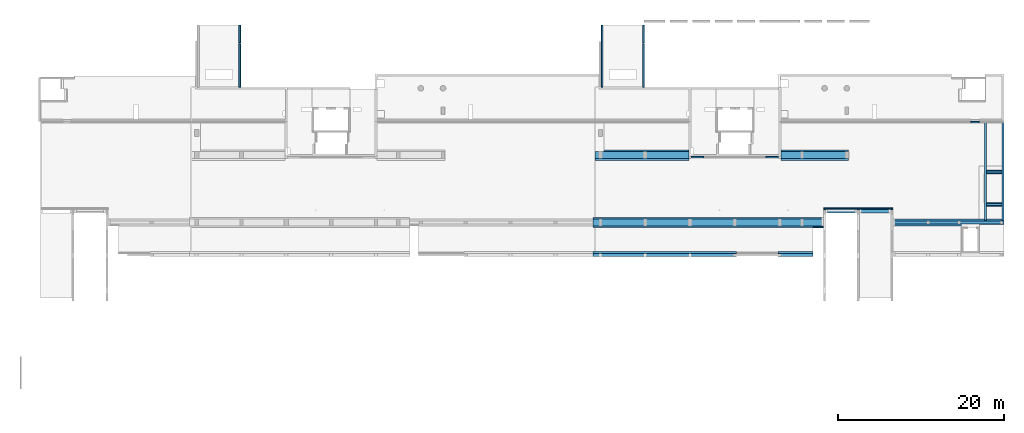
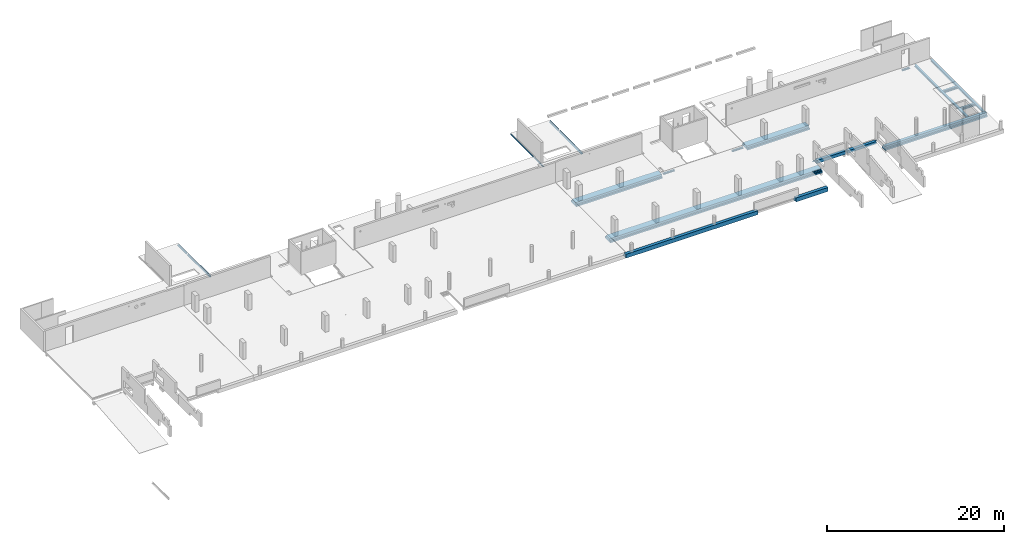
# One storey, part 2 of 10: 24 beams.
"""IFC2X3 building model written with IfcOpenShell, lengths in millimetres."""

import ifcopenshell
import ifcopenshell.guid

model = None  # the IFC model being written
_history = None  # IfcOwnerHistory: only IFC2X3 demands one
_inside = {}  # id of a spatial element -> (the spatial element, [elements in it])
_under = {}  # id of a project, library or spatial element -> (it, [spatial elements below it])
_declared = {}  # id of a project -> (the project, [libraries it declares])
_typed = {}  # id of a type object -> (the type object, [elements of that type])
_made_of = {}  # id of a material, layer set ... -> (it, [elements and type objects made of it])


def new_model(schema):
    """Start an empty IFC model of exactly this schema.

    Asked for "IFC4X3", IfcOpenShell would pick the latest addendum, in which some entities
    have other attributes; the version numbers below select the first issue.
    IFC2X3 requires an IfcOwnerHistory on every rooted entity: one is made here for all.
    """
    global model, _history
    if schema == "IFC4X3":
        model = ifcopenshell.file(schema_version=(4, 3, 0, 0))
    else:
        model = ifcopenshell.file(schema=schema)
    _inside.clear()
    _under.clear()
    _declared.clear()
    _typed.clear()
    _made_of.clear()
    _history = None
    if model.schema == "IFC2X3":
        org = make("IfcOrganization", Name="unknown")
        user = make(
            "IfcPersonAndOrganization",
            ThePerson=make("IfcPerson", FamilyName="unknown"),
            TheOrganization=org,
        )
        app = make(
            "IfcApplication",
            ApplicationDeveloper=org,
            Version="unknown",
            ApplicationFullName="unknown",
            ApplicationIdentifier="unknown",
        )
        _history = make(
            "IfcOwnerHistory",
            OwningUser=user,
            OwningApplication=app,
            ChangeAction="ADDED",
            CreationDate=0,
        )
    return model


def make(cls, **values):
    """One entity of the class cls with the attributes given. An attribute that is None is left unset."""
    return model.create_entity(
        cls, **{name: value for name, value in values.items() if value is not None}
    )


def entity(cls, *values):
    """Any entity or typed value of the class cls, its attributes in the order of the schema. None: left unset."""
    e = model.create_entity(cls)
    for i, value in enumerate(values):
        if value is not None:
            e[i] = value
    return e


def rooted(cls, **values):
    """An entity with a GlobalId (a new one), such as an element, a storey or a relation."""
    return make(cls, GlobalId=ifcopenshell.guid.new(), OwnerHistory=_history, **values)


def si_unit(unit_type, name, prefix=None):
    """IfcSIUnit, for example si_unit("LENGTHUNIT", "METRE", prefix="MILLI")."""
    return make("IfcSIUnit", UnitType=unit_type, Prefix=prefix, Name=name)


def converted_unit(unit_type, name, factor, base, dimensions=None, offset=None):
    """IfcConversionBasedUnit, such as the inch: factor (a typed value) times the base unit."""
    return make(
        "IfcConversionBasedUnit"
        if offset is None
        else "IfcConversionBasedUnitWithOffset",
        ConversionOffset=offset,
        Dimensions=None
        if dimensions is None
        else entity("IfcDimensionalExponents", *dimensions),
        UnitType=unit_type,
        Name=name,
        ConversionFactor=make(
            "IfcMeasureWithUnit", ValueComponent=factor, UnitComponent=base
        ),
    )


def derived_unit(unit_type, elements):
    """IfcDerivedUnit: a product of units, each with its exponent."""
    return make(
        "IfcDerivedUnit",
        Elements=[
            make("IfcDerivedUnitElement", Unit=unit, Exponent=power)
            for unit, power in elements
        ],
        UnitType=unit_type,
    )


def assignment(units):
    """IfcUnitAssignment: the units of a project."""
    return None if units is None else make("IfcUnitAssignment", Units=units)


def point(xyz):
    """IfcCartesianPoint."""
    return None if xyz is None else make("IfcCartesianPoint", Coordinates=xyz)


def direction(xyz):
    """IfcDirection."""
    return None if xyz is None else make("IfcDirection", DirectionRatios=xyz)


def frame(location, z_axis=None, x_axis=None):
    """IfcAxis2Placement3D, a coordinate frame: its origin and axes. An axis left out is left unset."""
    return make(
        "IfcAxis2Placement3D",
        Location=point(location),
        Axis=direction(z_axis),
        RefDirection=direction(x_axis),
    )


def frame_2d(location, x_axis=None):
    """IfcAxis2Placement2D, a coordinate frame in the plane: its origin and x axis."""
    return make(
        "IfcAxis2Placement2D", Location=point(location), RefDirection=direction(x_axis)
    )


def origin():
    """The frame at (0, 0, 0) with its axes left unset."""
    return frame((0.0, 0.0, 0.0))


def origin_2d_with_axis():
    """The frame at (0, 0) in the plane with the x axis (1, 0) written out."""
    return frame_2d((0.0, 0.0), x_axis=(1.0, 0.0))


def place(relative_to, where):
    """IfcLocalPlacement: puts the frame where relative to a parent placement (None: the world)."""
    return make(
        "IfcLocalPlacement", PlacementRelTo=relative_to, RelativePlacement=where
    )


def context(
    kind, dimensions, precision=None, world=None, true_north=None, identifier=None
):
    """IfcGeometricRepresentationContext, for example the 3D "Model" context."""
    return make(
        "IfcGeometricRepresentationContext",
        ContextIdentifier=identifier,
        ContextType=kind,
        CoordinateSpaceDimension=dimensions,
        Precision=precision,
        WorldCoordinateSystem=world,
        TrueNorth=true_north,
    )


def subcontext(parent, identifier, kind, view, scale=None):
    """IfcGeometricRepresentationSubContext, for example "Body" below "Model"."""
    return make(
        "IfcGeometricRepresentationSubContext",
        ContextIdentifier=identifier,
        ContextType=kind,
        ParentContext=parent,
        TargetScale=scale,
        TargetView=view,
    )


def project(units=None, contexts=None):
    """IfcProject with its units and contexts."""
    return rooted(
        "IfcProject",
        Name="project",
        RepresentationContexts=contexts,
        UnitsInContext=assignment(units),
    )


def spatial(cls, under=None, at=None, **own):
    """A site, building, storey or space (cls), placed at a placement, below another one or the project."""
    s = rooted(cls, ObjectPlacement=at, **own)
    if under is not None:
        _under.setdefault(under.id(), (under, []))[1].append(s)
    return s


def polyline(points):
    """IfcPolyline through the points."""
    return make("IfcPolyline", Points=[point(p) for p in points])


def circle_curve(where, radius):
    """IfcCircle in the frame where."""
    return make("IfcCircle", Position=where, Radius=radius)


def parameter(value):
    """IfcParameterValue: where a trimmed curve begins or ends, as a parameter of its basis curve."""
    return model.create_entity("IfcParameterValue", value)


def trimmed(basis, trim1, trim2, sense, master):
    """IfcTrimmedCurve: the piece of a basis curve between two trims."""
    return make(
        "IfcTrimmedCurve",
        BasisCurve=basis,
        Trim1=trim1,
        Trim2=trim2,
        SenseAgreement=sense,
        MasterRepresentation=master,
    )


def segment(curve, same_sense, transition):
    """IfcCompositeCurveSegment."""
    return make(
        "IfcCompositeCurveSegment",
        Transition=transition,
        SameSense=same_sense,
        ParentCurve=curve,
    )


def composite_curve(segments, self_intersect=None):
    """IfcCompositeCurve: segments joined end to end."""
    return make("IfcCompositeCurve", Segments=segments, SelfIntersect=self_intersect)


def profile(cls, at=None, kind="AREA", **sizes):
    """A parametric profile (cls). Its sizes go by their IFC names, for example OverallWidth=200.0."""
    return make(cls, ProfileType=kind, Position=at, **sizes)


def rectangle(**sizes):
    """IfcRectangleProfileDef."""
    return profile("IfcRectangleProfileDef", **sizes)


def i_section(**sizes):
    """IfcIShapeProfileDef."""
    return profile("IfcIShapeProfileDef", **sizes)


def outline(outer, holes=None, kind="AREA"):
    """IfcArbitraryClosedProfileDef: a profile drawn as a closed curve; with holes, ...WithVoids."""
    if holes is None:
        return make("IfcArbitraryClosedProfileDef", ProfileType=kind, OuterCurve=outer)
    return make(
        "IfcArbitraryProfileDefWithVoids",
        ProfileType=kind,
        OuterCurve=outer,
        InnerCurves=holes,
    )


def extrude(swept, where, along, depth):
    """IfcExtrudedAreaSolid: the profile swept, set in the frame where, extruded along a direction by depth."""
    return make(
        "IfcExtrudedAreaSolid",
        SweptArea=swept,
        Position=where,
        ExtrudedDirection=direction(along),
        Depth=depth,
    )


def shape(context_of_items, identifier, shape_type, items):
    """IfcShapeRepresentation: the items that make up one representation, for example the "Body"."""
    return make(
        "IfcShapeRepresentation",
        ContextOfItems=context_of_items,
        RepresentationIdentifier=identifier,
        RepresentationType=shape_type,
        Items=items,
    )


def source(mapping_origin, context_of_items, identifier, shape_type, items):
    """IfcRepresentationMap: a shape defined once, which mapped items show again and again."""
    return make(
        "IfcRepresentationMap",
        MappingOrigin=mapping_origin,
        MappedRepresentation=shape(context_of_items, identifier, shape_type, items),
    )


def transform(
    local_origin,
    x_axis=None,
    y_axis=None,
    z_axis=None,
    scale=None,
    scale2=None,
    scale3=None,
    uniform=True,
):
    """IfcCartesianTransformationOperator3D, or its non-uniform kind. x_axis, y_axis, z_axis: its Axis1, 2, 3."""
    if uniform:
        return make(
            "IfcCartesianTransformationOperator3D",
            Axis1=direction(x_axis),
            Axis2=direction(y_axis),
            LocalOrigin=point(local_origin),
            Scale=scale,
            Axis3=direction(z_axis),
        )
    return make(
        "IfcCartesianTransformationOperator3DnonUniform",
        Axis1=direction(x_axis),
        Axis2=direction(y_axis),
        LocalOrigin=point(local_origin),
        Scale=scale,
        Axis3=direction(z_axis),
        Scale2=scale2,
        Scale3=scale3,
    )


def mapped(mapping_source, mapping_target):
    """IfcMappedItem: shows the shape of a source again, moved by a transform."""
    return make(
        "IfcMappedItem", MappingSource=mapping_source, MappingTarget=mapping_target
    )


def material(Name=None, Category=None):
    """IfcMaterial."""
    return make("IfcMaterial", Name=Name, Category=Category)


def made_of(thing, what):
    """Note that an element or type object is made of a material, layer set ...; save() writes the relation."""
    if what is not None:
        _made_of.setdefault(what.id(), (what, []))[1].append(thing)
    return thing


def type_object(cls, material=None, **own):
    """A type object (cls), such as IfcWallType, which elements share."""
    return made_of(rooted(cls, **own), material)


def type_shapes(of_type, sources):
    """Give a type object the sources (RepresentationMaps) that its elements show as mapped items."""
    of_type.RepresentationMaps = sources


def element(
    cls,
    number,
    at=None,
    inside=None,
    cuts=None,
    type_object=None,
    material=None,
    context=None,
    identifier="Body",
    shape_type=None,
    held_by="IfcProductDefinitionShape",
    body=None,
    shapes=None,
    **own,
):
    """One element of the class cls, such as IfcWall. Its Tag is "e" and its number.

    at: its placement. inside: the storey or other place that contains it. cuts: it is an
    opening in that element (IfcRelVoidsElement). A single representation is given by context,
    identifier, shape_type and body (its items); several are given by shapes. held_by: the class
    of the entity that holds the representations. save() writes the other relations.
    """
    e = rooted(cls, Tag="e%d" % number, ObjectPlacement=at, **own)
    if body is not None:
        shapes = [shape(context, identifier, shape_type, body)]
    if shapes is not None:
        e.Representation = make(held_by, Representations=shapes)
    if inside is not None:
        _inside.setdefault(inside.id(), (inside, []))[1].append(e)
    if cuts is not None:
        rooted(
            "IfcRelVoidsElement", RelatingBuildingElement=cuts, RelatedOpeningElement=e
        )
    if type_object is not None:
        _typed.setdefault(type_object.id(), (type_object, []))[1].append(e)
    return made_of(e, material)


def aggregate(whole, parts):
    """IfcRelAggregates: a whole, such as a stair, and the parts it consists of."""
    return rooted("IfcRelAggregates", RelatingObject=whole, RelatedObjects=parts)


def save(model, path):
    """Write the relations noted so far, then the file.

    IfcRelAggregates (storeys below a building ...), IfcRelContainedInSpatialStructure (elements
    in a storey), IfcRelDefinesByType, IfcRelAssociatesMaterial and IfcRelDeclares: one each for
    every whole, place, type object, material and project.
    """
    for whole, parts in _under.values():
        aggregate(whole, parts)
    for where, things in _inside.values():
        rooted(
            "IfcRelContainedInSpatialStructure",
            RelatedElements=things,
            RelatingStructure=where,
        )
    for kind, things in _typed.values():
        rooted("IfcRelDefinesByType", RelatedObjects=things, RelatingType=kind)
    for what, things in _made_of.values():
        rooted("IfcRelAssociatesMaterial", RelatedObjects=things, RelatingMaterial=what)
    for by, libraries in _declared.values():
        rooted("IfcRelDeclares", RelatingContext=by, RelatedDefinitions=libraries)
    model.write(path)


model = new_model("IFC2X3")

# Units and contexts
model_context = context("Model", 3, precision=0.01, world=origin(), true_north=direction((6.12303176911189e-17, 1.0)))
body_context = subcontext(model_context, "Body", "Model", "MODEL_VIEW")
ifc_project = project(units=[si_unit("LENGTHUNIT", "METRE", prefix="MILLI"), si_unit("AREAUNIT", "SQUARE_METRE"), si_unit("VOLUMEUNIT", "CUBIC_METRE"), converted_unit("PLANEANGLEUNIT", "DEGREE", entity("IfcRatioMeasure", 0.0174532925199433), si_unit("PLANEANGLEUNIT", "RADIAN"), dimensions=[0, 0, 0, 0, 0, 0, 0]), si_unit("MASSUNIT", "GRAM", prefix="KILO"), derived_unit("MASSDENSITYUNIT", [(si_unit("MASSUNIT", "GRAM", prefix="KILO"), 1), (si_unit("LENGTHUNIT", "METRE"), -3)]), si_unit("TIMEUNIT", "SECOND"), si_unit("FREQUENCYUNIT", "HERTZ"), si_unit("THERMODYNAMICTEMPERATUREUNIT", "DEGREE_CELSIUS"), derived_unit("THERMALTRANSMITTANCEUNIT", [(si_unit("MASSUNIT", "GRAM", prefix="KILO"), 1), (si_unit("THERMODYNAMICTEMPERATUREUNIT", "KELVIN"), -1), (si_unit("TIMEUNIT", "SECOND"), -3)]), derived_unit("VOLUMETRICFLOWRATEUNIT", [(si_unit("LENGTHUNIT", "METRE"), 3), (si_unit("TIMEUNIT", "SECOND"), -1)]), si_unit("ELECTRICCURRENTUNIT", "AMPERE"), si_unit("ELECTRICVOLTAGEUNIT", "VOLT"), si_unit("POWERUNIT", "WATT"), si_unit("FORCEUNIT", "NEWTON", prefix="KILO"), si_unit("ILLUMINANCEUNIT", "LUX"), si_unit("LUMINOUSFLUXUNIT", "LUMEN"), si_unit("LUMINOUSINTENSITYUNIT", "CANDELA"), derived_unit("USERDEFINED", [(si_unit("MASSUNIT", "GRAM", prefix="KILO"), -1), (si_unit("LENGTHUNIT", "METRE"), -2), (si_unit("TIMEUNIT", "SECOND"), 3), (si_unit("LUMINOUSFLUXUNIT", "LUMEN"), 1)]), derived_unit("LINEARVELOCITYUNIT", [(si_unit("LENGTHUNIT", "METRE"), 1), (si_unit("TIMEUNIT", "SECOND"), -1)]), si_unit("PRESSUREUNIT", "PASCAL"), derived_unit("USERDEFINED", [(si_unit("LENGTHUNIT", "METRE"), -2), (si_unit("MASSUNIT", "GRAM", prefix="KILO"), 1), (si_unit("TIMEUNIT", "SECOND"), -2)])], contexts=[model_context])

# Site, building, storey
site_placement = place(None, origin())
site = spatial("IfcSite", under=ifc_project, at=site_placement, Name="Default", CompositionType="ELEMENT")
building_placement = place(site_placement, origin())
building = spatial("IfcBuilding", under=site, at=building_placement, Name="niet gebruiken", CompositionType="ELEMENT")
storey_placement = place(building_placement, frame((0.0, 0.0, 9410.0)))
storey = spatial("IfcBuildingStorey", under=building, at=storey_placement, Name="02b tweede tussenverdieping", CompositionType="ELEMENT", Elevation=9409.99999999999)

# Beams
ifc_material_1 = material(Name="NLRS_f2_beton prefab")
beam_type_1 = type_object("IfcBeamType", Name="NLRS_28.11_SF_WPB_prefabbeton balk enkele sponning_gen:600x540/200x200", PredefinedType="BEAM")
beam_1_placement = place(storey_placement, frame((74750.0, 25076.0, 10.0)))
element("IfcBeam", 1, at=beam_1_placement, inside=storey, type_object=beam_type_1, material=ifc_material_1, Name="NLRS_28.11_SF_WPB_prefabbeton balk enkele sponning_gen:600x540/200x200", ObjectType="NLRS_28.11_SF_WPB_prefabbeton balk enkele sponning_gen:600x540/200x200", context=body_context, shape_type="SweptSolid", body=[
    extrude(outline(polyline([(-293.333333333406, -333.333333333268), (246.666666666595, -333.333333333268), (246.666666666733, 266.66666666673), (46.6666666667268, 266.666666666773), (46.6666666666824, 66.6666666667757), (-293.333333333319, 66.6666666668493), (-293.333333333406, -333.333333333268)])), frame((0.0, 33.3333333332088, -293.333333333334), z_axis=(1.0, 0.0, 0.0), x_axis=(0.0, 0.0, -1.0)), (0.0, 0.0, 1.0), 17250.0000000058),
])
beam_2_placement = place(storey_placement, frame((97000.0, 25076.0, 10.0)))
element("IfcBeam", 2, at=beam_2_placement, inside=storey, type_object=beam_type_1, material=ifc_material_1, Name="NLRS_28.11_SF_WPB_prefabbeton balk enkele sponning_gen:600x540/200x200", ObjectType="NLRS_28.11_SF_WPB_prefabbeton balk enkele sponning_gen:600x540/200x200", context=body_context, shape_type="SweptSolid", body=[
    extrude(outline(polyline([(-293.333333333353, -333.333333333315), (246.666666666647, -333.333333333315), (246.666666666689, 266.666666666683), (46.6666666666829, 266.666666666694), (46.6666666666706, 66.6666666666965), (-293.333333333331, 66.6666666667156), (-293.333333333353, -333.333333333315)])), frame((0.0, 33.3333333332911, -293.333333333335), z_axis=(1.0, 0.0, 0.0), x_axis=(0.0, 0.0, -1.0)), (0.0, 0.0, 1.0), 4205.00000000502),
])
beam_type_2 = type_object("IfcBeamType", Name="NLRS_28.11_SF_WPB_prefabbeton balk dubbele sponning_gen:800x460/200x260/200x260", PredefinedType="BEAM")
beam_3_placement = place(storey_placement, frame((110845.0, 28881.0, -70.0)))
element("IfcBeam", 3, at=beam_3_placement, inside=storey, type_object=beam_type_2, material=ifc_material_1, Name="NLRS_28.11_SF_WPB_prefabbeton balk dubbele sponning_gen:800x460/200x260/200x260", ObjectType="NLRS_28.11_SF_WPB_prefabbeton balk dubbele sponning_gen:800x460/200x260/200x260", context=body_context, shape_type="SweptSolid", body=[
    extrude(outline(polyline([(15.0, -400.0), (215.0, -400.0), (215.0, 400.0), (15.0, 400.0), (15.0, 200.0), (-245.0, 200.0), (-245.0, -200.0), (15.0, -200.0), (15.0, -400.0)])), frame((0.0, 0.0, -245.0), z_axis=(1.0, 0.0, 0.0), x_axis=(0.0, 0.0, -1.0)), (0.0, 0.0, 1.0), 13354.999999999),
])
beam_type_3 = type_object("IfcBeamType", Name="NLRS_28.11_SF_WPB_prefabbeton balk dubbele sponning_gen:1250x460/200x260/200x260", PredefinedType="BEAM")
beam_4_placement = place(storey_placement, frame((74750.0, 28881.0, -70.0)))
element("IfcBeam", 4, at=beam_4_placement, inside=storey, type_object=beam_type_3, material=ifc_material_1, Name="NLRS_28.11_SF_WPB_prefabbeton balk dubbele sponning_gen:1250x460/200x260/200x260", ObjectType="NLRS_28.11_SF_WPB_prefabbeton balk dubbele sponning_gen:1250x460/200x260/200x260", context=body_context, shape_type="SweptSolid", body=[
    extrude(outline(polyline([(15.0, -625.0), (215.0, -625.0), (215.0, 625.0), (15.0, 625.0), (15.0, 425.0), (-245.0, 425.0), (-245.0, -425.0), (15.0, -425.0), (15.0, -625.0)])), frame((0.0, 0.0, -245.0), z_axis=(1.0, 0.0, 0.0), x_axis=(0.0, 0.0, -1.0)), (0.0, 0.0, 1.0), 27705.0000000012),
])
beam_5_placement = place(storey_placement, frame((97345.0, 36981.0, -70.0)))
element("IfcBeam", 5, at=beam_5_placement, inside=storey, type_object=beam_type_3, material=ifc_material_1, Name="NLRS_28.11_SF_WPB_prefabbeton balk dubbele sponning_gen:1250x460/200x260/200x260", ObjectType="NLRS_28.11_SF_WPB_prefabbeton balk dubbele sponning_gen:1250x460/200x260/200x260", context=body_context, shape_type="SweptSolid", body=[
    extrude(outline(polyline([(15.0, -625.0), (215.0, -625.0), (215.0, 625.0), (15.0, 625.0), (15.0, 425.0), (-245.0, 425.0), (-245.0, -425.0), (15.0, -425.0), (15.0, -625.0)])), frame((0.0, 0.0, -245.0), z_axis=(1.0, 0.0, 0.0), x_axis=(0.0, 0.0, -1.0)), (0.0, 0.0, 1.0), 8154.86878208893),
])
beam_6_placement = place(storey_placement, frame((74970.0, 36981.0, -70.0)))
element("IfcBeam", 6, at=beam_6_placement, inside=storey, type_object=beam_type_3, material=ifc_material_1, Name="NLRS_28.11_SF_WPB_prefabbeton balk dubbele sponning_gen:1250x460/200x260/200x260", ObjectType="NLRS_28.11_SF_WPB_prefabbeton balk dubbele sponning_gen:1250x460/200x260/200x260", context=body_context, shape_type="SweptSolid", body=[
    extrude(outline(polyline([(15.0, -625.0), (215.0, -625.0), (215.0, 625.0), (15.0, 625.0), (15.0, 425.0), (-245.0, 425.0), (-245.0, -425.0), (15.0, -425.0), (15.0, -625.0)])), frame((0.0, 0.0, -245.0), z_axis=(1.0, 0.0, 0.0), x_axis=(0.0, 0.0, -1.0)), (0.0, 0.0, 1.0), 11284.9999999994),
])
ifc_material_2 = material(Name="NLRS_h2_staal")
beam_type_4 = type_object("IfcBeamType", Name="NLRS_28.11_SF_WPB_stalen ligger hoekprofiel gelijkzijdig_gen:ligger gelijzijdig hoekprofiel LEQU_200x200x15", PredefinedType="BEAM")
beam_7_placement = place(storey_placement, frame((95545.0, 36756.0, -245.0)))
element("IfcBeam", 7, at=beam_7_placement, inside=storey, type_object=beam_type_4, material=ifc_material_2, Name="NLRS_28.11_SF_WPB_stalen ligger hoekprofiel gelijkzijdig_gen:ligger gelijzijdig hoekprofiel LEQU_200x200x15", ObjectType="NLRS_28.11_SF_WPB_stalen ligger hoekprofiel gelijkzijdig_gen:ligger gelijzijdig hoekprofiel LEQU_200x200x15", context=body_context, shape_type="SweptSolid", body=[
    extrude(outline(composite_curve([segment(polyline([(66.3333333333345, -126.666666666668), (73.3333333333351, -126.666666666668)]), True, "CONTINUOUS"), segment(polyline([(73.3333333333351, -126.666666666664), (73.3333333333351, 73.333333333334)]), True, "CONTINUOUS"), segment(polyline([(73.3333333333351, 73.333333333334), (-126.666666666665, 73.333333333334)]), True, "CONTINUOUS"), segment(polyline([(-126.666666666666, 73.333333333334), (-126.666666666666, 66.3333333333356)]), True, "CONTINUOUS"), segment(trimmed(circle_curve(frame_2d((-118.666666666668, 66.3333333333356), x_axis=(-1.0, 0.0)), 7.99999999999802), [parameter(0.0)], [parameter(90.0000000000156)], True, "PARAMETER"), True, "CONTINUOUS"), segment(polyline([(-118.666666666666, 58.3333333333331), (42.3333333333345, 58.3333333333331)]), True, "CONTINUOUS"), segment(trimmed(circle_curve(frame_2d((42.3333333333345, 42.3333333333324), x_axis=(0.0, 1.0)), 16.0000000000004), [parameter(270.0)], [parameter(0.0)], True, "PARAMETER"), False, "CONTINUOUS"), segment(polyline([(58.3333333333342, 42.3333333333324), (58.3333333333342, -118.666666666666)]), True, "CONTINUOUS"), segment(trimmed(circle_curve(frame_2d((66.3333333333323, -118.666666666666), x_axis=(-1.0, 0.0)), 7.99999999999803), [parameter(0.0)], [parameter(90.0000000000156)], True, "PARAMETER"), True, "CONTINUOUS")], self_intersect=False)), frame((0.0, 26.6666666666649, -26.6666666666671), z_axis=(1.0, 0.0, 0.0), x_axis=(0.0, 0.0, -1.0)), (0.0, 0.0, 1.0), 1510.00000000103),
])
beam_8_placement = place(storey_placement, frame((86545.0, 36756.0, -245.0)))
element("IfcBeam", 8, at=beam_8_placement, inside=storey, type_object=beam_type_4, material=ifc_material_2, Name="NLRS_28.11_SF_WPB_stalen ligger hoekprofiel gelijkzijdig_gen:ligger gelijzijdig hoekprofiel LEQU_200x200x15", ObjectType="NLRS_28.11_SF_WPB_stalen ligger hoekprofiel gelijkzijdig_gen:ligger gelijzijdig hoekprofiel LEQU_200x200x15", context=body_context, shape_type="SweptSolid", body=[
    extrude(outline(composite_curve([segment(polyline([(66.3333333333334, -126.66666666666), (73.333333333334, -126.66666666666)]), True, "CONTINUOUS"), segment(polyline([(73.333333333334, -126.666666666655), (73.333333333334, 73.3333333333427)]), True, "CONTINUOUS"), segment(polyline([(73.333333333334, 73.3333333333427), (-126.666666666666, 73.3333333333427)]), True, "CONTINUOUS"), segment(polyline([(-126.666666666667, 73.3333333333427), (-126.666666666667, 66.3333333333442)]), True, "CONTINUOUS"), segment(trimmed(circle_curve(frame_2d((-118.666666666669, 66.3333333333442), x_axis=(-1.0, 0.0)), 7.99999999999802), [parameter(0.0)], [parameter(90.0000000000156)], True, "PARAMETER"), True, "CONTINUOUS"), segment(polyline([(-118.666666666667, 58.3333333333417), (42.3333333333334, 58.3333333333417)]), True, "CONTINUOUS"), segment(trimmed(circle_curve(frame_2d((42.3333333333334, 42.333333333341), x_axis=(0.0, 1.0)), 16.0000000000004), [parameter(270.0)], [parameter(0.0)], True, "PARAMETER"), False, "CONTINUOUS"), segment(polyline([(58.3333333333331, 42.333333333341), (58.3333333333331, -118.666666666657)]), True, "CONTINUOUS"), segment(trimmed(circle_curve(frame_2d((66.3333333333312, -118.666666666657), x_axis=(-1.0, 0.0)), 7.99999999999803), [parameter(0.0)], [parameter(90.0000000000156)], True, "PARAMETER"), True, "CONTINUOUS")], self_intersect=False)), frame((0.0, 26.6666666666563, -26.6666666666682), z_axis=(1.0, 0.0, 0.0), x_axis=(0.0, 0.0, -1.0)), (0.0, 0.0, 1.0), 1510.00000000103),
])
beam_9_placement = place(storey_placement, frame((75792.5000000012, 45176.0, -530.0), z_axis=(0.0, 0.0, 1.0), x_axis=(0.0, 1.0, 0.0)))
element("IfcBeam", 9, at=beam_9_placement, inside=storey, type_object=beam_type_4, material=ifc_material_2, Name="NLRS_28.11_SF_WPB_stalen ligger hoekprofiel gelijkzijdig_gen:ligger gelijzijdig hoekprofiel LEQU_200x200x15", ObjectType="NLRS_28.11_SF_WPB_stalen ligger hoekprofiel gelijkzijdig_gen:ligger gelijzijdig hoekprofiel LEQU_200x200x15", context=body_context, shape_type="SweptSolid", body=[
    extrude(outline(composite_curve([segment(polyline([(66.3333333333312, -126.666666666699), (73.3333333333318, -126.666666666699)]), True, "CONTINUOUS"), segment(polyline([(73.3333333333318, -126.666666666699), (73.3333333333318, 73.333333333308)]), True, "CONTINUOUS"), segment(polyline([(73.3333333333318, 73.333333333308), (-126.666666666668, 73.333333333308)]), True, "CONTINUOUS"), segment(polyline([(-126.666666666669, 73.3333333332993), (-126.666666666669, 66.3333333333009)]), True, "CONTINUOUS"), segment(trimmed(circle_curve(frame_2d((-118.666666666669, 66.3333333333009), x_axis=(-1.0, 0.0)), 7.99999999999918), [parameter(0.0)], [parameter(90.0000000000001)], True, "PARAMETER"), True, "CONTINUOUS"), segment(polyline([(-118.666666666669, 58.3333333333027), (42.3333333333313, 58.3333333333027)]), True, "CONTINUOUS"), segment(trimmed(circle_curve(frame_2d((42.3333333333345, 42.3333333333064), x_axis=(0.0, 1.0)), 15.9999999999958), [parameter(269.999999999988)], [parameter(0.0)], True, "PARAMETER"), False, "CONTINUOUS"), segment(polyline([(58.3333333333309, 42.3333333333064), (58.3333333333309, -118.666666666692)]), True, "CONTINUOUS"), segment(trimmed(circle_curve(frame_2d((66.3333333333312, -118.6666666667), x_axis=(-1.0, 0.0)), 7.99999999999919), [parameter(0.0)], [parameter(90.0000000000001)], True, "PARAMETER"), True, "CONTINUOUS")], self_intersect=False)), frame((0.0, 19.1666666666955, -26.6666666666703), z_axis=(1.0, 0.0, 0.0), x_axis=(0.0, 0.0, -1.0)), (0.0, 0.0, 1.0), 7420.0000000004),
])
beam_10_placement = place(storey_placement, frame((120225.0, 40968.4999999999, -145.0)))
element("IfcBeam", 10, at=beam_10_placement, inside=storey, type_object=beam_type_4, material=ifc_material_2, Name="NLRS_28.11_SF_WPB_stalen ligger hoekprofiel gelijkzijdig_gen:ligger gelijzijdig hoekprofiel LEQU_200x200x15", ObjectType="NLRS_28.11_SF_WPB_stalen ligger hoekprofiel gelijkzijdig_gen:ligger gelijzijdig hoekprofiel LEQU_200x200x15", context=body_context, shape_type="SweptSolid", body=[
    extrude(outline(composite_curve([segment(polyline([(66.3333333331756, -126.666666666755), (73.3333333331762, -126.666666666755)]), True, "CONTINUOUS"), segment(polyline([(73.3333333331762, -126.666666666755), (73.3333333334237, 73.3333333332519)]), True, "CONTINUOUS"), segment(polyline([(73.3333333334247, 73.3333333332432), (-126.666666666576, 73.3333333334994)]), True, "CONTINUOUS"), segment(polyline([(-126.666666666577, 73.3333333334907), (-126.666666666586, 66.3333333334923)]), True, "CONTINUOUS"), segment(trimmed(circle_curve(frame_2d((-118.666666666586, 66.3333333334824), x_axis=(-1.0, 0.0)), 7.99999999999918), [parameter(0.0)], [parameter(90.0000000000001)], True, "PARAMETER"), True, "CONTINUOUS"), segment(polyline([(-118.666666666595, 58.3333333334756), (42.3333333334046, 58.333333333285)]), True, "CONTINUOUS"), segment(trimmed(circle_curve(frame_2d((42.333333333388, 42.3333333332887), x_axis=(0.0, 1.0)), 15.9999999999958), [parameter(269.999999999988)], [parameter(0.0)], True, "PARAMETER"), False, "CONTINUOUS"), segment(polyline([(58.3333333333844, 42.3333333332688), (58.3333333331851, -118.666666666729)]), True, "CONTINUOUS"), segment(trimmed(circle_curve(frame_2d((66.3333333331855, -118.666666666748), x_axis=(-1.0, 0.0)), 7.99999999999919), [parameter(0.0)], [parameter(90.0000000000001)], True, "PARAMETER"), True, "CONTINUOUS")], self_intersect=False)), frame((0.0, 19.1666666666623, -126.666666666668), z_axis=(1.0, 0.0, 0.0), x_axis=(0.0, 0.0, -1.0)), (0.0, 0.0, 1.0), 1025.00000000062),
])
beam_11_placement = place(storey_placement, frame((102475.0, 30626.0, -252.500000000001)))
element("IfcBeam", 11, at=beam_11_placement, inside=storey, type_object=beam_type_4, material=ifc_material_2, Name="NLRS_28.11_SF_WPB_stalen ligger hoekprofiel gelijkzijdig_gen:ligger gelijzijdig hoekprofiel LEQU_200x200x15", ObjectType="NLRS_28.11_SF_WPB_stalen ligger hoekprofiel gelijkzijdig_gen:ligger gelijzijdig hoekprofiel LEQU_200x200x15", context=body_context, shape_type="SweptSolid", body=[
    extrude(outline(composite_curve([segment(polyline([(-126.666666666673, -73.3333333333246), (73.3333333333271, -73.3333333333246)]), True, "CONTINUOUS"), segment(polyline([(73.3333333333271, -73.3333333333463), (73.3333333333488, 126.666666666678)]), True, "CONTINUOUS"), segment(polyline([(73.3333333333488, 126.666666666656), (66.3333333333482, 126.666666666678)]), True, "CONTINUOUS"), segment(trimmed(circle_curve(frame_2d((66.3333333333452, 118.666666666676), x_axis=(0.0, 1.0)), 7.99999999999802), [parameter(0.0)], [parameter(90.0000000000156)], True, "PARAMETER"), True, "CONTINUOUS"), segment(polyline([(58.333333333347, 118.666666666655), (58.3333333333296, -42.3333333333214)]), True, "CONTINUOUS"), segment(trimmed(circle_curve(frame_2d((42.33333333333, -42.3333333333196), x_axis=(1.0, 0.0)), 16.0000000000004), [parameter(270.0)], [parameter(0.0)], True, "PARAMETER"), False, "CONTINUOUS"), segment(polyline([(42.3333333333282, -58.333333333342), (-118.666666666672, -58.3333333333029)]), True, "CONTINUOUS"), segment(trimmed(circle_curve(frame_2d((-118.666666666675, -66.3333333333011), x_axis=(0.0, 1.0)), 7.99999999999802), [parameter(0.0)], [parameter(90.0000000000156)], True, "PARAMETER"), True, "CONTINUOUS"), segment(polyline([(-126.666666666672, -66.3333333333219), (-126.666666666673, -73.3333333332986)]), True, "CONTINUOUS")], self_intersect=False)), frame((0.0, -126.666666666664, -19.1666666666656), z_axis=(1.0, 0.0, 0.0), x_axis=(0.0, 0.0, -1.0)), (0.0, 0.0, 1.0), 8349.99999999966),
])
beam_12_placement = place(storey_placement, frame((32207.5000000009, 45176.0, -530.0), z_axis=(0.0, 0.0, 1.0), x_axis=(0.0, 1.0, 0.0)))
element("IfcBeam", 12, at=beam_12_placement, inside=storey, type_object=beam_type_4, material=ifc_material_2, Name="NLRS_28.11_SF_WPB_stalen ligger hoekprofiel gelijkzijdig_gen:ligger gelijzijdig hoekprofiel LEQU_200x200x15", ObjectType="NLRS_28.11_SF_WPB_stalen ligger hoekprofiel gelijkzijdig_gen:ligger gelijzijdig hoekprofiel LEQU_200x200x15", context=body_context, shape_type="SweptSolid", body=[
    extrude(outline(composite_curve([segment(polyline([(-126.666666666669, -73.333333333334), (73.3333333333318, -73.333333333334)]), True, "CONTINUOUS"), segment(polyline([(73.3333333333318, -73.333333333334), (73.3333333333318, 126.666666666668)]), True, "CONTINUOUS"), segment(polyline([(73.3333333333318, 126.666666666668), (66.3333333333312, 126.666666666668)]), True, "CONTINUOUS"), segment(trimmed(circle_curve(frame_2d((66.3333333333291, 118.666666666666), x_axis=(0.0, 1.0)), 7.99999999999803), [parameter(0.0)], [parameter(90.0000000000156)], True, "PARAMETER"), True, "CONTINUOUS"), segment(polyline([(58.3333333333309, 118.666666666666), (58.3333333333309, -42.3333333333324)]), True, "CONTINUOUS"), segment(trimmed(circle_curve(frame_2d((42.3333333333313, -42.3333333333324), x_axis=(1.0, 0.0)), 16.0000000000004), [parameter(270.0)], [parameter(0.0)], True, "PARAMETER"), False, "CONTINUOUS"), segment(polyline([(42.3333333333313, -58.3333333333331), (-118.666666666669, -58.3333333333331)]), True, "CONTINUOUS"), segment(trimmed(circle_curve(frame_2d((-118.666666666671, -66.3333333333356), x_axis=(0.0, 1.0)), 7.99999999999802), [parameter(0.0)], [parameter(90.0000000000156)], True, "PARAMETER"), True, "CONTINUOUS"), segment(polyline([(-126.666666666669, -66.3333333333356), (-126.666666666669, -73.3333333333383)]), True, "CONTINUOUS")], self_intersect=False)), frame((0.0, -19.1666666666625, -26.6666666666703), z_axis=(1.0, 0.0, 0.0), x_axis=(0.0, 0.0, -1.0)), (0.0, 0.0, 1.0), 5205.00000000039),
])
beam_13_placement = place(storey_placement, frame((80807.5000000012, 45176.0, -530.0), z_axis=(0.0, 0.0, 1.0), x_axis=(0.0, 1.0, 0.0)))
element("IfcBeam", 13, at=beam_13_placement, inside=storey, type_object=beam_type_4, material=ifc_material_2, Name="NLRS_28.11_SF_WPB_stalen ligger hoekprofiel gelijkzijdig_gen:ligger gelijzijdig hoekprofiel LEQU_200x200x15", ObjectType="NLRS_28.11_SF_WPB_stalen ligger hoekprofiel gelijkzijdig_gen:ligger gelijzijdig hoekprofiel LEQU_200x200x15", context=body_context, shape_type="SweptSolid", body=[
    extrude(outline(composite_curve([segment(polyline([(-126.666666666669, -73.3333333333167), (73.3333333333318, -73.3333333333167)]), True, "CONTINUOUS"), segment(polyline([(73.3333333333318, -73.3333333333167), (73.3333333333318, 126.66666666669)]), True, "CONTINUOUS"), segment(polyline([(73.3333333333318, 126.66666666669), (66.3333333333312, 126.66666666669)]), True, "CONTINUOUS"), segment(trimmed(circle_curve(frame_2d((66.3333333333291, 118.666666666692), x_axis=(0.0, 1.0)), 7.9999999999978), [parameter(0.0)], [parameter(90.0000000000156)], True, "PARAMETER"), True, "CONTINUOUS"), segment(polyline([(58.3333333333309, 118.666666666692), (58.3333333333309, -42.3333333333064)]), True, "CONTINUOUS"), segment(trimmed(circle_curve(frame_2d((42.3333333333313, -42.3333333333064), x_axis=(1.0, 0.0)), 15.9999999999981), [parameter(270.0)], [parameter(0.0)], True, "PARAMETER"), False, "CONTINUOUS"), segment(polyline([(42.3333333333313, -58.3333333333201), (-118.666666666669, -58.3333333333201)]), True, "CONTINUOUS"), segment(trimmed(circle_curve(frame_2d((-118.666666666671, -66.3333333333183), x_axis=(0.0, 1.0)), 7.9999999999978), [parameter(0.0)], [parameter(90.0000000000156)], True, "PARAMETER"), True, "CONTINUOUS"), segment(polyline([(-126.666666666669, -66.3333333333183), (-126.666666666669, -73.3333333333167)]), True, "CONTINUOUS")], self_intersect=False)), frame((0.0, -19.1666666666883, -26.6666666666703), z_axis=(1.0, 0.0, 0.0), x_axis=(0.0, 0.0, -1.0)), (0.0, 0.0, 1.0), 5205.00000000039),
])
beam_14_placement = place(storey_placement, frame((32207.5000000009, 50531.0, -530.0), z_axis=(0.0, 0.0, 1.0), x_axis=(0.0, 1.0, 0.0)))
element("IfcBeam", 14, at=beam_14_placement, inside=storey, type_object=beam_type_4, material=ifc_material_2, Name="NLRS_28.11_SF_WPB_stalen ligger hoekprofiel gelijkzijdig_gen:ligger gelijzijdig hoekprofiel LEQU_200x200x15", ObjectType="NLRS_28.11_SF_WPB_stalen ligger hoekprofiel gelijkzijdig_gen:ligger gelijzijdig hoekprofiel LEQU_200x200x15", context=body_context, shape_type="SweptSolid", body=[
    extrude(outline(composite_curve([segment(polyline([(-126.666666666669, -73.333333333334), (73.3333333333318, -73.333333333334)]), True, "CONTINUOUS"), segment(polyline([(73.3333333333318, -73.333333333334), (73.3333333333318, 126.666666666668)]), True, "CONTINUOUS"), segment(polyline([(73.3333333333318, 126.666666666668), (66.3333333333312, 126.666666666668)]), True, "CONTINUOUS"), segment(trimmed(circle_curve(frame_2d((66.3333333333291, 118.666666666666), x_axis=(0.0, 1.0)), 7.99999999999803), [parameter(0.0)], [parameter(90.0000000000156)], True, "PARAMETER"), True, "CONTINUOUS"), segment(polyline([(58.3333333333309, 118.666666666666), (58.3333333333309, -42.3333333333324)]), True, "CONTINUOUS"), segment(trimmed(circle_curve(frame_2d((42.3333333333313, -42.3333333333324), x_axis=(1.0, 0.0)), 16.0000000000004), [parameter(270.0)], [parameter(0.0)], True, "PARAMETER"), False, "CONTINUOUS"), segment(polyline([(42.3333333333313, -58.3333333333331), (-118.666666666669, -58.3333333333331)]), True, "CONTINUOUS"), segment(trimmed(circle_curve(frame_2d((-118.666666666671, -66.3333333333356), x_axis=(0.0, 1.0)), 7.99999999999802), [parameter(0.0)], [parameter(90.0000000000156)], True, "PARAMETER"), True, "CONTINUOUS"), segment(polyline([(-126.666666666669, -66.3333333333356), (-126.666666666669, -73.333333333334)]), True, "CONTINUOUS")], self_intersect=False)), frame((0.0, -19.1666666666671, -26.6666666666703), z_axis=(1.0, 0.0, 0.0), x_axis=(0.0, 0.0, -1.0)), (0.0, 0.0, 1.0), 2065.0),
])
beam_15_placement = place(storey_placement, frame((80807.5000000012, 50531.0, -530.0), z_axis=(0.0, 0.0, 1.0), x_axis=(0.0, 1.0, 0.0)))
element("IfcBeam", 15, at=beam_15_placement, inside=storey, type_object=beam_type_4, material=ifc_material_2, Name="NLRS_28.11_SF_WPB_stalen ligger hoekprofiel gelijkzijdig_gen:ligger gelijzijdig hoekprofiel LEQU_200x200x15", ObjectType="NLRS_28.11_SF_WPB_stalen ligger hoekprofiel gelijkzijdig_gen:ligger gelijzijdig hoekprofiel LEQU_200x200x15", context=body_context, shape_type="SweptSolid", body=[
    extrude(outline(composite_curve([segment(polyline([(-126.666666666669, -73.3333333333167), (73.3333333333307, -73.3333333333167)]), True, "CONTINUOUS"), segment(polyline([(73.3333333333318, -73.3333333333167), (73.3333333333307, 126.66666666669)]), True, "CONTINUOUS"), segment(polyline([(73.3333333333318, 126.66666666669), (66.3333333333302, 126.66666666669)]), True, "CONTINUOUS"), segment(trimmed(circle_curve(frame_2d((66.3333333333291, 118.666666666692), x_axis=(0.0, 1.0)), 7.9999999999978), [parameter(0.0)], [parameter(90.0000000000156)], True, "PARAMETER"), True, "CONTINUOUS"), segment(polyline([(58.3333333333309, 118.666666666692), (58.3333333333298, -42.3333333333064)]), True, "CONTINUOUS"), segment(trimmed(circle_curve(frame_2d((42.3333333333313, -42.3333333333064), x_axis=(1.0, 0.0)), 15.9999999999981), [parameter(270.0)], [parameter(0.0)], True, "PARAMETER"), False, "CONTINUOUS"), segment(polyline([(42.3333333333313, -58.3333333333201), (-118.66666666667, -58.3333333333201)]), True, "CONTINUOUS"), segment(trimmed(circle_curve(frame_2d((-118.666666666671, -66.3333333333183), x_axis=(0.0, 1.0)), 7.9999999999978), [parameter(0.0)], [parameter(90.0000000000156)], True, "PARAMETER"), True, "CONTINUOUS"), segment(polyline([(-126.666666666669, -66.3333333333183), (-126.66666666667, -73.3333333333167)]), True, "CONTINUOUS")], self_intersect=False)), frame((0.0, -19.1666666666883, -26.6666666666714), z_axis=(1.0, 0.0, 0.0), x_axis=(0.0, 0.0, -1.0)), (0.0, 0.0, 1.0), 2065.0),
])
beam_type_5 = type_object("IfcBeamType", Name="NLRS_28.11_SF_WPB_prefabbeton balk recht_gen:400x450", PredefinedType="BEAM")
beam_16_placement = place(storey_placement, frame((102745.0, 30226.0, 0.0)))
element("IfcBeam", 16, at=beam_16_placement, inside=storey, type_object=beam_type_5, material=ifc_material_1, Name="NLRS_28.11_SF_WPB_prefabbeton balk recht_gen:400x450", ObjectType="NLRS_28.11_SF_WPB_prefabbeton balk recht_gen:400x450", context=body_context, shape_type="SweptSolid", body=[
    extrude(rectangle(XDim=449.999999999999, YDim=400.0, at=frame_2d((0.0, -2.38173925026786e-11), x_axis=(1.0, 0.0))), frame((0.0, 0.0, -225.0), z_axis=(1.0, 0.0, 0.0), x_axis=(0.0, 0.0, -1.0)), (0.0, 0.0, 1.0), 3760.00000000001),
])
beam_type_6 = type_object("IfcBeamType", Name="NLRS_28.11_SF_WPB_prefabbeton balk recht_gen:380x350", PredefinedType="BEAM")
beam_17_placement = place(storey_placement, frame((110555.0, 30236.0, -100.0), z_axis=(0.0, 0.0, 1.0), x_axis=(-1.0, 0.0, 0.0)))
element("IfcBeam", 17, at=beam_17_placement, inside=storey, type_object=beam_type_6, material=ifc_material_1, Name="NLRS_28.11_SF_WPB_prefabbeton balk recht_gen:380x350", ObjectType="NLRS_28.11_SF_WPB_prefabbeton balk recht_gen:380x350", context=body_context, shape_type="SweptSolid", body=[
    extrude(rectangle(XDim=349.999999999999, YDim=380.0, at=frame_2d((5.40012479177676e-13, -8.65441052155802e-12), x_axis=(1.0, 0.0))), frame((0.0, 0.0, -175.0), z_axis=(1.0, 0.0, 0.0), x_axis=(0.0, 0.0, -1.0)), (0.0, 0.0, 1.0), 3759.99999999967),
])
beam_type_7 = type_object("IfcBeamType", Name="NLRS_28.11_SF_WPB_prefabbeton balk recht_gen:200x140", PredefinedType="BEAM")
beam_18_placement = place(storey_placement, frame((101225.1, 28356.0, -190.0)))
element("IfcBeam", 18, at=beam_18_placement, inside=storey, type_object=beam_type_7, material=ifc_material_1, Name="NLRS_28.11_SF_WPB_prefabbeton balk recht_gen:200x140", ObjectType="NLRS_28.11_SF_WPB_prefabbeton balk recht_gen:200x140", context=body_context, shape_type="SweptSolid", body=[
    extrude(rectangle(XDim=140.000000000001, YDim=199.999999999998, at=frame_2d((-5.40012479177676e-13, 4.33431068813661e-12), x_axis=(1.0, 0.0))), frame((0.0, 0.0, -70.0), z_axis=(1.0, 0.0, 0.0), x_axis=(0.0, 0.0, -1.0)), (0.0, 0.0, 1.0), 1229.90000000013),
])
beam_type_8 = type_object("IfcBeamType", Name="NLRS_28.11_SF_WPB_stalen ligger HEA_gen:ligger HEA 260", PredefinedType="BEAM")
for number, where, z_axis, x_axis, name in (
    (19, (124070.0, 41041.0, -80.0), (0.0, 0.0, 1.0), (0.0, -1.0, 0.0), "NLRS_28.11_SF_WPB_stalen ligger HEA_gen:ligger HEA 260"),
    (20, (121970.014648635, 41041.0, -80.0), (0.0, 0.0, 1.0), (0.0, -1.0, 0.0), "NLRS_28.11_SF_WPB_stalen ligger HEA_gen:ligger HEA 260"),
):
    element("IfcBeam", number, at=place(storey_placement, frame(where, z_axis=z_axis, x_axis=x_axis)), inside=storey, type_object=beam_type_8, material=ifc_material_2, Name=name, ObjectType="NLRS_28.11_SF_WPB_stalen ligger HEA_gen:ligger HEA 260", context=body_context, shape_type="SweptSolid", body=[
        extrude(i_section(OverallWidth=260.00000000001, OverallDepth=250.000000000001, WebThickness=7.49999999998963, FlangeThickness=12.4999999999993, FilletRadius=23.9999999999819, at=frame_2d((-1.62714286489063e-12, 0.0), x_axis=(0.0, 1.0))), frame((0.0, 0.0, -125.0), z_axis=(1.0, 0.0, 0.0), x_axis=(0.0, 0.0, -1.0)), (0.0, 0.0, 1.0), 11939.9999999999),
    ])
for number, where, name in (
    (21, (122100.014648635, 34955.0, -80.0), "NLRS_28.11_SF_WPB_stalen ligger HEA_gen:ligger HEA 260"),
    (22, (122100.014648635, 31045.0, -80.0), "NLRS_28.11_SF_WPB_stalen ligger HEA_gen:ligger HEA 260"),
):
    element("IfcBeam", number, at=place(storey_placement, frame(where)), inside=storey, type_object=beam_type_8, material=ifc_material_2, Name=name, ObjectType="NLRS_28.11_SF_WPB_stalen ligger HEA_gen:ligger HEA 260", context=body_context, shape_type="SweptSolid", body=[
        extrude(i_section(OverallWidth=260.000000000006, OverallDepth=250.000000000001, WebThickness=7.49999999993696, FlangeThickness=12.4999999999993, FilletRadius=23.9999999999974, at=frame_2d((5.40012479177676e-13, 4.32009983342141e-12), x_axis=(0.0, 1.0))), frame((0.0, 0.0, -125.0), z_axis=(1.0, 0.0, 0.0), x_axis=(0.0, 0.0, -1.0)), (0.0, 0.0, 1.0), 1839.98535136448),
    ])
beam_type_9 = type_object("IfcBeamType", Name="ligger stripstaal RECT_460x10", PredefinedType="BEAM", material=ifc_material_2)
shared_shape = source(origin(), body_context, "Body", "SweptSolid", [
    extrude(rectangle(XDim=1839.98535136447, YDim=460.0, at=origin_2d_with_axis()), frame((0.0, 0.0, -5.0), z_axis=(0.0, 0.0, 1.0), x_axis=(-1.0, 0.0, 0.0)), (0.0, 0.0, 1.0), 9.99999999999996),
    extrude(rectangle(XDim=1839.98535136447, YDim=460.0, at=origin_2d_with_axis()), frame((0.0, 0.0, -5.0), z_axis=(0.0, 0.0, 1.0), x_axis=(-1.0, 0.0, 0.0)), (0.0, 0.0, 1.0), 9.99999999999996),
])
type_shapes(beam_type_9, [shared_shape])
for number, where, name in (
    (23, (123020.007324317, 34955.0, -335.0), "NLRS_28.11_SF_WPB_stalen ligger stripstaal_gen:ligger stripstaal RECT_460x10"),
    (24, (123020.007324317, 31045.0, -335.0), "NLRS_28.11_SF_WPB_stalen ligger stripstaal_gen:ligger stripstaal RECT_460x10"),
):
    element("IfcBeam", number, at=place(storey_placement, frame(where)), inside=storey, type_object=beam_type_9, material=ifc_material_2, Name=name, ObjectType="ligger stripstaal RECT_460x10", context=body_context, shape_type="MappedRepresentation", body=[
        mapped(shared_shape, transform((0.0, 0.0, 0.0), scale=1.0)),
    ])

save(model, "model.ifc")
